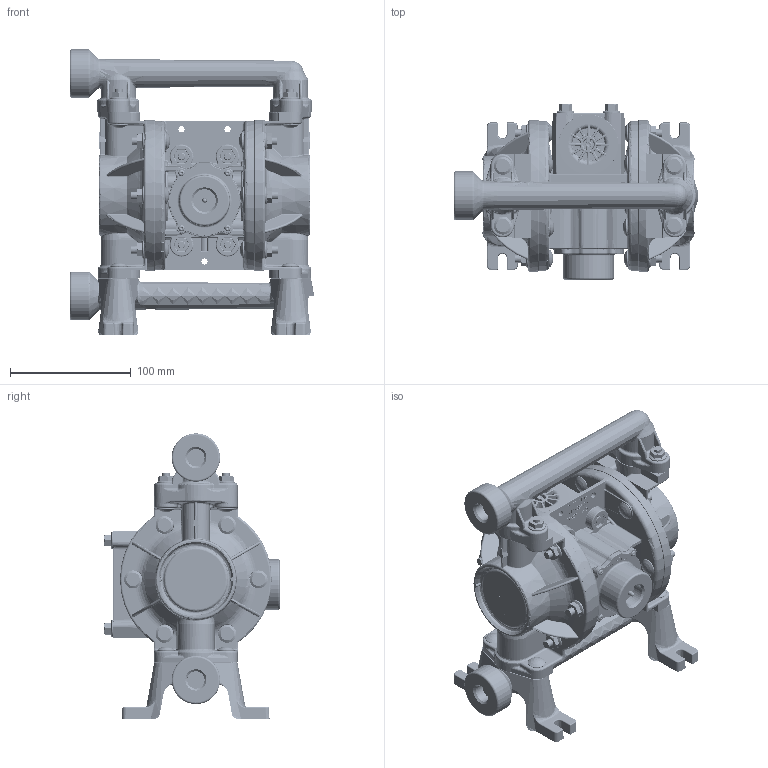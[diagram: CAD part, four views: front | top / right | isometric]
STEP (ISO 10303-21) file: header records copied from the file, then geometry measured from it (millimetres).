
FILE_DESCRIPTION(/* description */ (''),/* implementation_level */ '2;1');
FILE_NAME(/* name */ 'PD03P-X-X_08',/* time_stamp */ '2008-08-13T08:51:38-04:00',/* author */ (''),/* organization */ (''),/* preprocessor_version */ 'ST-DEVELOPER v9',/* originating_system */ 'UGS - NX 4.0',/* authorisation */ '');
FILE_SCHEMA (('AUTOMOTIVE_DESIGN { 1 0 10303 214 1 1 1 1 }'));
Length unit declared in the file: inch
Products named in the file (1): szeeFE64jdyz
Bounding box: 202.26 x 145.16 x 236.16 mm (x, y, z)
Volume: 1679204 mm3; surface area: 257871.1 mm2
Topology: 1 solids, 1 shells, 7886 faces, 19694 edges, 11662 vertices
Faces by surface type: plane 2804, bspline 2021, cylinder 1419, torus 617, cone 409, sphere 354, extrusion 262
Full cylindrical faces by diameter (mm): 2.388 x4, 5.105 x3, 6.35 x20, 8.331 x1, 8.441 x2, 9.954 x4, 10 x1, 10.996 x1, 14.224 x4, 14.417 x2, 14.834 x20, 18.694 x1, 40.104 x2, 41.91 x1, 123.825 x1
Entity records: 282823 total; most frequent: CARTESIAN_POINT 114067, ORIENTED_EDGE 37792, DIRECTION 31320, EDGE_CURVE 18896, AXIS2_PLACEMENT_3D 11702, VERTEX_POINT 11488, EDGE_LOOP 8372, VECTOR 7916
